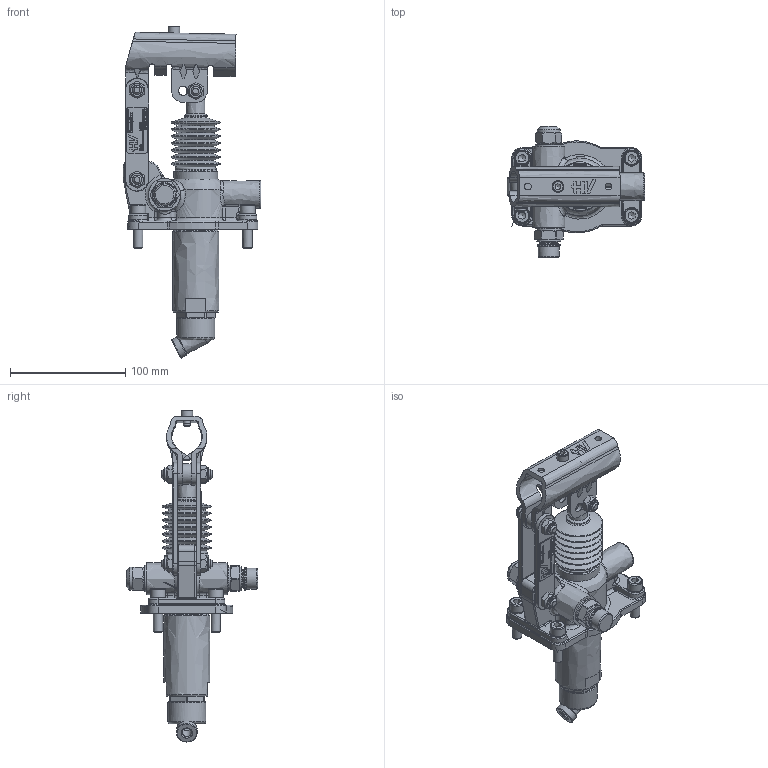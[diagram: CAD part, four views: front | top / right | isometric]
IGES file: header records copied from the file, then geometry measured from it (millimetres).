
Global section: file name: No Iges File Name specified; native system: Autodesk Inventor 2013; preprocessor: AutoDesk Inventor Iges Exporter R2013; author: christian.scardovi; date: 20240228.140915; units: millimetre
Bounding box: 119.5 x 114 x 288.31 mm (x, y, z)
Volume: 416725.7 mm3; surface area: 123045.6 mm2
Topology: 3 solids, 3 shells, 1394 faces, 3526 edges, 2229 vertices
Faces by surface type: bspline 1394
